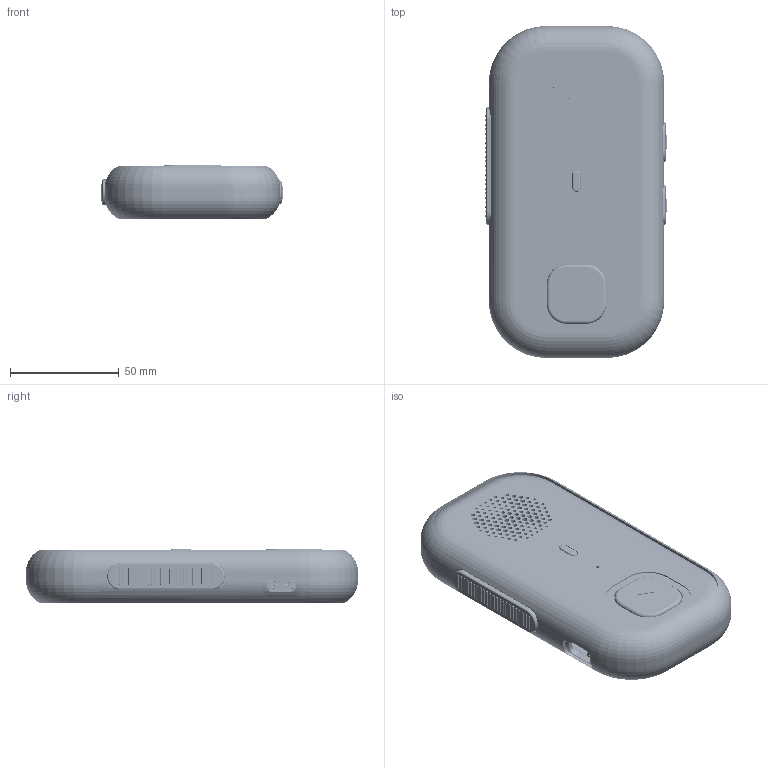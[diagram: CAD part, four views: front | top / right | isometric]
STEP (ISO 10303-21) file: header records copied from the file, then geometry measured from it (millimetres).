
FILE_DESCRIPTION(('Open CASCADE Model'),'2;1');
FILE_NAME('Walkie_One_Concept_27_UC1_REFERENCE_ASSEMBLY', '2026-09-09T20:28:35',('Author'),('Open CASCADE'), 'Open CASCADE STEP processor 7.9','build123d','Unknown');
FILE_SCHEMA(('AUTOMOTIVE_DESIGN { 1 0 10303 214 1 1 1 1 }'));
Length unit declared in the file: millimetre
Products named in the file (459): Walkie_One_Concept_27_UC1_REFERENCE_ASSEMBLY; C27_UC1_01_Front_Shell_Chalk_Centered_Mic; C27_UC1_02_Back_Shell_Chalk; C27_UC1_03_Front_Action_Rigid_Carrier; C27_UC1_04_Status_Lens; C27_UC1_05_Front_Switch_Clamp; C27_UC1_06_PTT_Rigid_Carrier; C27_UC1_07_Volume_Up_Rigid_Carrier; C27_UC1_08_Volume_Down_Rigid_Carrier; C27_UC1_09_Warm_Grey_Elastomer_Rim; C27_UC1_10_Front_Action_Pewter_Cap; C27_UC1_11_Front_Action_Bond_Film; C27_UC1_12_Volume_Up_Pewter_Cap; C27_UC1_13_Volume_Up_Bond_Film; C27_UC1_14_Volume_Down_Pewter_Cap; C27_UC1_15_Volume_Down_Bond_Film; C27_UC1_16_Orange_Ribbed_PTT_Grip; C27_UC1_17_PTT_Bond_Film; C27_UC1_PCB_Front_Seat_1; C27_UC1_PCB_Rear_Preload_1; C27_UC1_PCB_Front_Seat_2; C27_UC1_PCB_Rear_Preload_2; C27_UC1_PCB_Front_Seat_3; C27_UC1_PCB_Rear_Preload_3; C27_UC1_PCB_Front_Seat_4; C27_UC1_PCB_Rear_Preload_4; C27_UC1_Battery_Front_Pad_-1_Segment_1; C27_UC1_Battery_Front_Pad_-1_Segment_2; C27_UC1_Battery_Rear_Pad_-1; C27_UC1_Battery_Side_Liner_-1; C27_UC1_Battery_Front_Pad_1; C27_UC1_Battery_Rear_Pad_1; C27_UC1_Battery_Side_Liner_1; C27_UC1_Battery_Lower_Liner; C27_UC1_Battery_Upper_Liner_-1; C27_UC1_Battery_Upper_Liner_1; C27_UC1_Speaker_Front_Gasket; C27_UC1_Speaker_Ear_Keeper_1; C27_UC1_Speaker_Ear_Preload_1; C27_UC1_Speaker_Ear_Keeper_2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
Assembly tree (458 placements, depth 3):
  Walkie_One_Concept_27_UC1_REFERENCE_ASSEMBLY
    C27_UC1_01_Front_Shell_Chalk_Centered_Mic
    C27_UC1_02_Back_Shell_Chalk
    C27_UC1_03_Front_Action_Rigid_Carrier
    C27_UC1_04_Status_Lens
    C27_UC1_05_Front_Switch_Clamp
    C27_UC1_06_PTT_Rigid_Carrier
    C27_UC1_07_Volume_Up_Rigid_Carrier
    C27_UC1_08_Volume_Down_Rigid_Carrier
    C27_UC1_09_Warm_Grey_Elastomer_Rim
    C27_UC1_10_Front_Action_Pewter_Cap
    C27_UC1_11_Front_Action_Bond_Film
    C27_UC1_12_Volume_Up_Pewter_Cap
    C27_UC1_13_Volume_Up_Bond_Film
    C27_UC1_14_Volume_Down_Pewter_Cap
    C27_UC1_15_Volume_Down_Bond_Film
    C27_UC1_16_Orange_Ribbed_PTT_Grip
    C27_UC1_17_PTT_Bond_Film
    C27_UC1_PCB_Front_Seat_1
    C27_UC1_PCB_Rear_Preload_1
    C27_UC1_PCB_Front_Seat_2
    C27_UC1_PCB_Rear_Preload_2
    C27_UC1_PCB_Front_Seat_3
    C27_UC1_PCB_Rear_Preload_3
    C27_UC1_PCB_Front_Seat_4
    C27_UC1_PCB_Rear_Preload_4
    C27_UC1_Battery_Front_Pad_-1_Segment_1
    C27_UC1_Battery_Front_Pad_-1_Segment_2
    C27_UC1_Battery_Rear_Pad_-1
    C27_UC1_Battery_Side_Liner_-1
    C27_UC1_Battery_Front_Pad_1
    C27_UC1_Battery_Rear_Pad_1
    C27_UC1_Battery_Side_Liner_1
    C27_UC1_Battery_Lower_Liner
    C27_UC1_Battery_Upper_Liner_-1
    C27_UC1_Battery_Upper_Liner_1
    C27_UC1_Speaker_Front_Gasket
    C27_UC1_Speaker_Ear_Keeper_1
    C27_UC1_Speaker_Ear_Preload_1
    C27_UC1_Speaker_Ear_Keeper_2
    C27_UC1_Speaker_Ear_Preload_2
    C27_UC1_Microphone_Removable_Keeper
    C27_UC1_Microphone_Rear_Preload
    C27_UC1_Mic_Front_Seat_1
    C27_UC1_Mic_Front_Seat_2
    C27_UC1_Mic_Front_Seat_3
    C27_UC1_Mic_Front_Seat_4
    C27_UC1_Microphone_Acoustic_Seal
    C27_UC1_Microphone_Acoustic_Membrane
    C27_UC1_LED_Horizontal_Removable_Keeper
    C27_UC1_LED_Saddle_Pad_1
    C27_UC1_LED_Saddle_Pad_2
    C27_UC1_Internal_Right_Angle_Light_Coupler
    C27_UC1_Optical_Coupling_Film
    C27_UC1_LTE_Nonmetallic_Service_Frame
    C27_UC1_LTE_Dielectric_Seat
    C27_UC1_LTE_Seat_Bond_Film
    C27_UC1_HW_Closure_-33.4_-56
      C27_UC1_HW_Closure_-33.4_-56_1
    C27_UC1_HW_Closure_-33.4_56
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Bounding box: 83.35 x 152.7 x 24.74 mm (x, y, z)
Volume: 117981.7 mm3; surface area: 159093.7 mm2
Topology: 430 solids, 435 shells, 24768 faces, 52997 edges, 29379 vertices
Faces by surface type: plane 19666, cylinder 2775, bspline 1994, torus 238, cone 60, sphere 31, revolution 4
Full cylindrical faces by diameter (mm): 0.3 x59, 0.375 x1, 0.5 x1, 0.75 x4, 0.813 x5, 0.9 x8, 1.4 x32, 1.5 x5, 1.567 x14, 1.7 x26, 1.8 x49, 2.013 x4, 2.1 x4, 2.2 x44, 2.3 x12, 2.6 x6, 2.8 x4, 2.9 x4, 3 x3, 4.2 x6, 4.68 x4, 5 x1, 5.3 x1, 5.4 x1, 5.5 x1, 35.8 x1, 39.6 x1
Entity records: 1408291 total; most frequent: CARTESIAN_POINT 332989, DIRECTION 193685, LINE 132876, VECTOR 132876, ORIENTED_EDGE 105904, PCURVE 105904, DEFINITIONAL_REPRESENTATION 105904, EDGE_CURVE 52952
